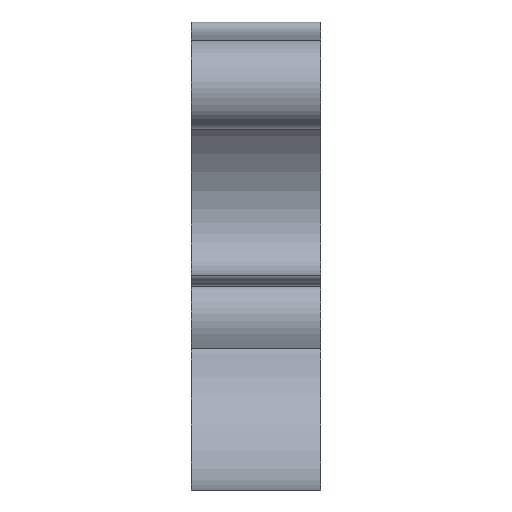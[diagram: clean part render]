
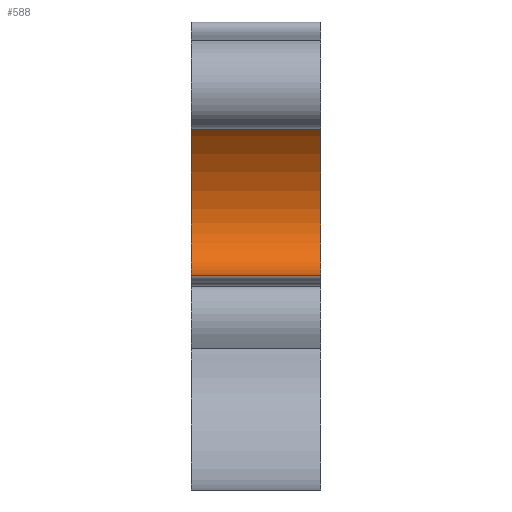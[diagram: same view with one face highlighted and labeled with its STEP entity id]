
A CAD part, left-side view. The second image highlights one B-rep face of the part: STEP entity #588.
In plain terms, the highlighted free-form (B-spline) face has degree [4, 1] with [5, 2] control points.
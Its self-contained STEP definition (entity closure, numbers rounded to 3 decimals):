
#64=FACE_OUTER_BOUND('',#97,.T.);
#97=EDGE_LOOP('',(#441,#442,#443,#444));
#134=LINE('',#1325,#165);
#135=LINE('',#1348,#166);
#165=VECTOR('',#683,26.5);
#166=VECTOR('',#684,26.5);
#208=B_SPLINE_CURVE_WITH_KNOTS('',4,(#1337,#1338,#1339,#1340,#1341),
 .UNSPECIFIED.,.F.,.F.,(5,5),(0.,1.),.UNSPECIFIED.);
#209=B_SPLINE_CURVE_WITH_KNOTS('',4,(#1343,#1344,#1345,#1346,#1347),
 .UNSPECIFIED.,.F.,.F.,(5,5),(0.,1.),.UNSPECIFIED.);
#258=VERTEX_POINT('',#1315);
#259=VERTEX_POINT('',#1320);
#260=VERTEX_POINT('',#1336);
#261=VERTEX_POINT('',#1342);
#334=EDGE_CURVE('',#258,#259,#134,.T.);
#335=EDGE_CURVE('',#260,#258,#208,.T.);
#336=EDGE_CURVE('',#261,#259,#209,.T.);
#337=EDGE_CURVE('',#260,#261,#135,.T.);
#441=ORIENTED_EDGE('',*,*,#335,.T.);
#442=ORIENTED_EDGE('',*,*,#334,.T.);
#443=ORIENTED_EDGE('',*,*,#336,.F.);
#444=ORIENTED_EDGE('',*,*,#337,.F.);
#529=B_SPLINE_SURFACE_WITH_KNOTS('',4,1,((#1326,#1327),(#1328,#1329),(#1330,
#1331),(#1332,#1333),(#1334,#1335)),.UNSPECIFIED.,.F.,.F.,.F.,(5,5),(2,
2),(0.,1.),(0.,1.2),.UNSPECIFIED.);
#588=ADVANCED_FACE('',(#64),#529,.T.);
#683=DIRECTION('',(0.,-1.,0.));
#684=DIRECTION('',(0.,-1.,0.));
#1315=CARTESIAN_POINT('',(11.719,0.,-62.146));
#1320=CARTESIAN_POINT('',(11.719,-31.8,-62.146));
#1325=CARTESIAN_POINT('',(11.719,0.,-62.146));
#1326=CARTESIAN_POINT('Ctrl Pts',(-31.935,0.,-26.186));
#1327=CARTESIAN_POINT('Ctrl Pts',(-31.935,-31.8,-26.186));
#1328=CARTESIAN_POINT('Ctrl Pts',(-18.625,0.,5.928));
#1329=CARTESIAN_POINT('Ctrl Pts',(-18.625,-31.8,5.928));
#1330=CARTESIAN_POINT('Ctrl Pts',(30.022,0.,-15.935));
#1331=CARTESIAN_POINT('Ctrl Pts',(30.022,-31.8,-15.935));
#1332=CARTESIAN_POINT('Ctrl Pts',(40.751,0.,-62.856));
#1333=CARTESIAN_POINT('Ctrl Pts',(40.751,-31.8,-62.856));
#1334=CARTESIAN_POINT('Ctrl Pts',(11.719,0.,-62.146));
#1335=CARTESIAN_POINT('Ctrl Pts',(11.719,-31.8,-62.146));
#1336=CARTESIAN_POINT('',(-31.935,0.,-26.186));
#1337=CARTESIAN_POINT('Ctrl Pts',(-31.935,0.,-26.186));
#1338=CARTESIAN_POINT('Ctrl Pts',(-18.625,0.,5.928));
#1339=CARTESIAN_POINT('Ctrl Pts',(30.022,0.,-15.935));
#1340=CARTESIAN_POINT('Ctrl Pts',(40.751,0.,-62.856));
#1341=CARTESIAN_POINT('Ctrl Pts',(11.719,0.,-62.146));
#1342=CARTESIAN_POINT('',(-31.935,-31.8,-26.186));
#1343=CARTESIAN_POINT('Ctrl Pts',(-31.935,-31.8,-26.186));
#1344=CARTESIAN_POINT('Ctrl Pts',(-18.625,-31.8,5.928));
#1345=CARTESIAN_POINT('Ctrl Pts',(30.022,-31.8,-15.935));
#1346=CARTESIAN_POINT('Ctrl Pts',(40.751,-31.8,-62.856));
#1347=CARTESIAN_POINT('Ctrl Pts',(11.719,-31.8,-62.146));
#1348=CARTESIAN_POINT('',(-31.935,0.,-26.186));
